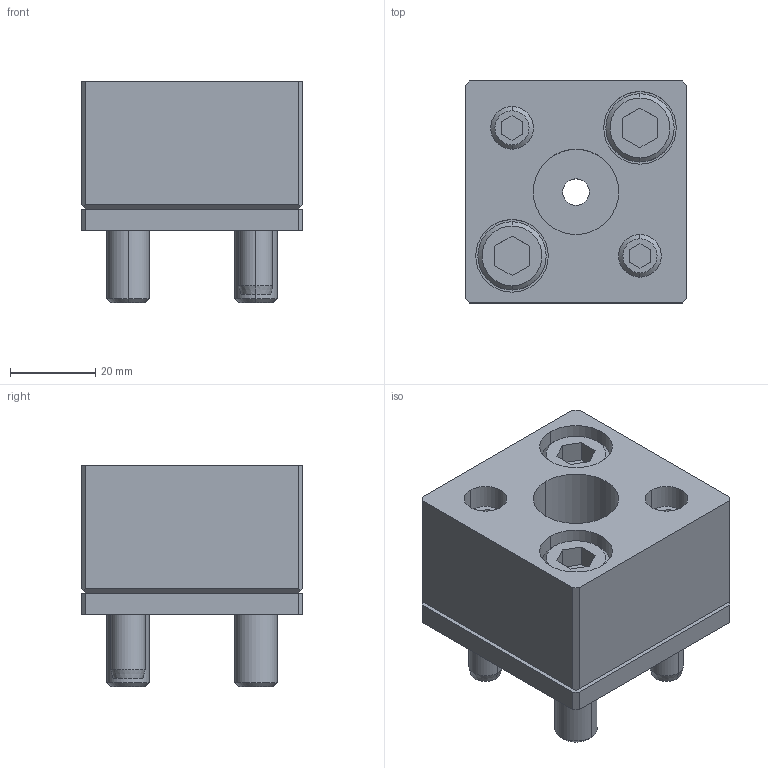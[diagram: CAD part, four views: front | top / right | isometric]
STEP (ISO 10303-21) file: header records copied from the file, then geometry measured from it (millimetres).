
FILE_DESCRIPTION(/* description */ (''),/* implementation_level */ '2;1');
FILE_NAME(/* name */ '3d_sr-ap20_03064_r00.stp',/* time_stamp */ '2011-01-10T14:10:00+09:00',/* author */ ('MISUMI'),/* organization */ (''),/* preprocessor_version */ 'ST-DEVELOPER v11',/* originating_system */ 'UGS - NX 5.0',/* authorisation */ '');
FILE_SCHEMA (('CONFIG_CONTROL_DESIGN'));
Length unit declared in the file: millimetre
Products named in the file (1): 3d_sr-ap20_03064_r00
Bounding box: 52 x 52 x 52 mm (x, y, z)
Volume: 83158.4 mm3; surface area: 30285.8 mm2
Topology: 8 solids, 8 shells, 159 faces, 358 edges, 230 vertices
Faces by surface type: plane 77, cylinder 56, cone 26
Entity records: 4588 total; most frequent: DIRECTION 812, CARTESIAN_POINT 790, ORIENTED_EDGE 716, EDGE_CURVE 358, AXIS2_PLACEMENT_3D 298, VERTEX_POINT 230, LINE 216, VECTOR 216
